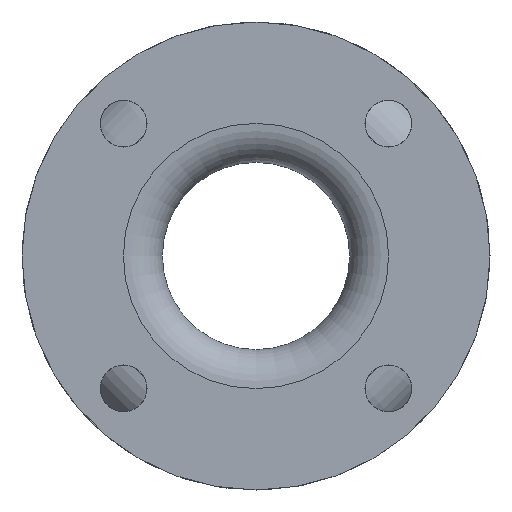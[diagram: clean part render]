
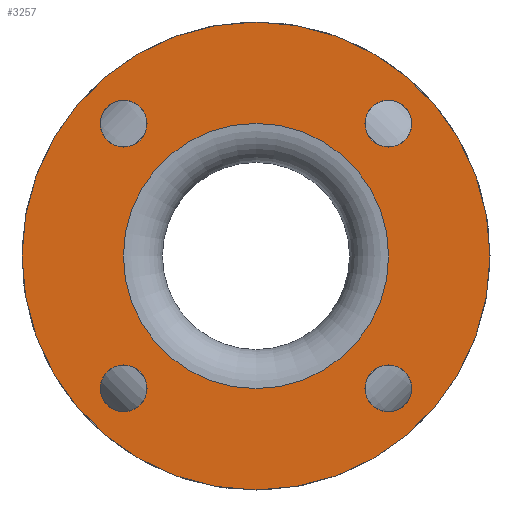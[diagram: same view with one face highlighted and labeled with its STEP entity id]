
A CAD part, left-side view. The second image highlights one B-rep face of the part: STEP entity #3257.
In plain terms, the highlighted planar face has unit normal (-1, 0, 0).
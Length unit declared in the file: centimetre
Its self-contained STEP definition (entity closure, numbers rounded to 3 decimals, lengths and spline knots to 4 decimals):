
#60=FACE_BOUND('',#575,.T.);
#61=FACE_BOUND('',#576,.T.);
#62=FACE_BOUND('',#577,.T.);
#63=FACE_BOUND('',#578,.T.);
#64=FACE_BOUND('',#579,.T.);
#65=FACE_BOUND('',#580,.T.);
#575=EDGE_LOOP('',(#2475));
#576=EDGE_LOOP('',(#2476));
#577=EDGE_LOOP('',(#2477));
#578=EDGE_LOOP('',(#2478));
#579=EDGE_LOOP('',(#2479));
#580=EDGE_LOOP('',(#2480));
#1152=CIRCLE('',#3541,0.9525);
#1154=CIRCLE('',#3544,0.9525);
#1156=CIRCLE('',#3547,0.9525);
#1158=CIRCLE('',#3550,0.9525);
#1178=CIRCLE('',#3585,5.3975);
#1179=CIRCLE('',#3587,9.525);
#1436=VERTEX_POINT('',#5351);
#1438=VERTEX_POINT('',#5356);
#1440=VERTEX_POINT('',#5361);
#1442=VERTEX_POINT('',#5366);
#1462=VERTEX_POINT('',#5421);
#1463=VERTEX_POINT('',#5424);
#1808=EDGE_CURVE('',#1436,#1436,#1152,.T.);
#1810=EDGE_CURVE('',#1438,#1438,#1154,.T.);
#1812=EDGE_CURVE('',#1440,#1440,#1156,.T.);
#1814=EDGE_CURVE('',#1442,#1442,#1158,.T.);
#1834=EDGE_CURVE('',#1462,#1462,#1178,.T.);
#1835=EDGE_CURVE('',#1463,#1463,#1179,.T.);
#2475=ORIENTED_EDGE('',*,*,#1808,.T.);
#2476=ORIENTED_EDGE('',*,*,#1810,.T.);
#2477=ORIENTED_EDGE('',*,*,#1812,.T.);
#2478=ORIENTED_EDGE('',*,*,#1814,.T.);
#2479=ORIENTED_EDGE('',*,*,#1835,.F.);
#2480=ORIENTED_EDGE('',*,*,#1834,.T.);
#2945=PLANE('',#3586);
#3257=ADVANCED_FACE('',(#60,#61,#62,#63,#64,#65),#2945,.T.);
#3541=AXIS2_PLACEMENT_3D('',#5352,#4253,#4254);
#3544=AXIS2_PLACEMENT_3D('',#5357,#4259,#4260);
#3547=AXIS2_PLACEMENT_3D('',#5362,#4265,#4266);
#3550=AXIS2_PLACEMENT_3D('',#5367,#4271,#4272);
#3585=AXIS2_PLACEMENT_3D('',#5422,#4341,#4342);
#3586=AXIS2_PLACEMENT_3D('',#5423,#4343,#4344);
#3587=AXIS2_PLACEMENT_3D('',#5425,#4345,#4346);
#4253=DIRECTION('center_axis',(1.,0.,0.));
#4254=DIRECTION('ref_axis',(0.,0.,1.));
#4259=DIRECTION('center_axis',(1.,0.,0.));
#4260=DIRECTION('ref_axis',(0.,1.,0.));
#4265=DIRECTION('center_axis',(1.,0.,0.));
#4266=DIRECTION('ref_axis',(0.,0.,-1.));
#4271=DIRECTION('center_axis',(1.,0.,0.));
#4272=DIRECTION('ref_axis',(0.,-1.,0.));
#4341=DIRECTION('center_axis',(1.,0.,0.));
#4342=DIRECTION('ref_axis',(0.,0.,-1.));
#4343=DIRECTION('center_axis',(-1.,0.,0.));
#4344=DIRECTION('ref_axis',(0.,0.,1.));
#4345=DIRECTION('center_axis',(1.,0.,0.));
#4346=DIRECTION('ref_axis',(0.,0.,-1.));
#5351=CARTESIAN_POINT('',(-12.7,-5.3882,-6.3407));
#5352=CARTESIAN_POINT('Origin',(-12.7,-5.3882,-5.3882));
#5356=CARTESIAN_POINT('',(-12.7,-6.3407,5.3882));
#5357=CARTESIAN_POINT('Origin',(-12.7,-5.3882,5.3882));
#5361=CARTESIAN_POINT('',(-12.7,5.3882,6.3407));
#5362=CARTESIAN_POINT('Origin',(-12.7,5.3882,5.3882));
#5366=CARTESIAN_POINT('',(-12.7,6.3407,-5.3882));
#5367=CARTESIAN_POINT('Origin',(-12.7,5.3882,-5.3882));
#5421=CARTESIAN_POINT('',(-12.7,5.3975,0.));
#5422=CARTESIAN_POINT('Origin',(-12.7,0.,0.));
#5423=CARTESIAN_POINT('Origin',(-12.7,9.525,0.));
#5424=CARTESIAN_POINT('',(-12.7,9.525,0.));
#5425=CARTESIAN_POINT('Origin',(-12.7,0.,0.));
